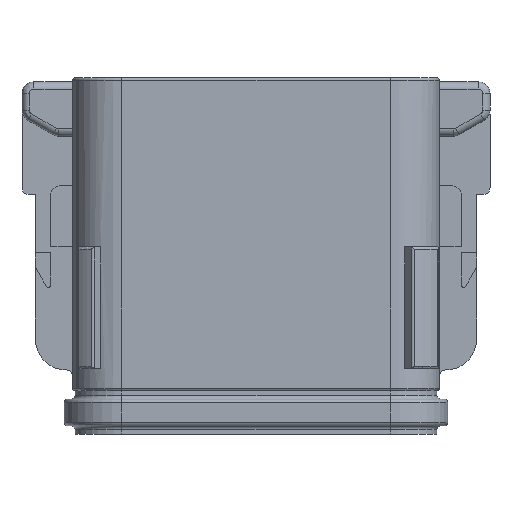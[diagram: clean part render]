
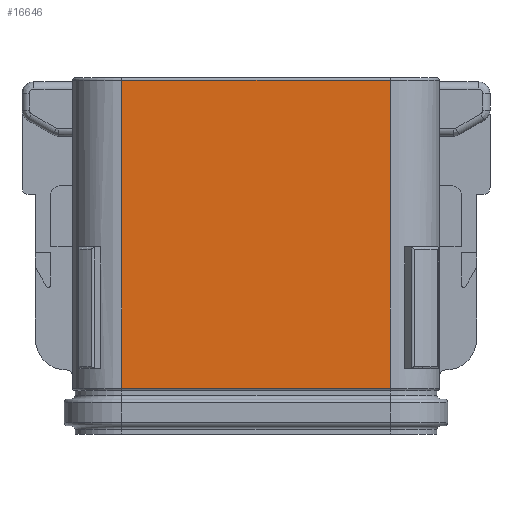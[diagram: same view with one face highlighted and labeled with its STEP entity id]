
A CAD part, front view. The second image highlights one B-rep face of the part: STEP entity #16646.
In plain terms, the highlighted planar face has unit normal (0, -1, 0).
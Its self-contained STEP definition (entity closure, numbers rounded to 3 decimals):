
#2602=DIRECTION('',(1.,0.,0.));
#2603=VECTOR('',#2602,23.241);
#2604=CARTESIAN_POINT('',(-11.62,-9.093,-0.25));
#2605=LINE('',#2604,#2603);
#2609=DIRECTION('',(1.,0.,0.));
#2610=VECTOR('',#2609,23.241);
#2611=CARTESIAN_POINT('',(-11.621,-9.093,-26.927));
#2612=LINE('',#2611,#2610);
#2616=DIRECTION('',(0.,0.,-1.));
#2617=VECTOR('',#2616,26.677);
#2618=CARTESIAN_POINT('',(-11.62,-9.093,-0.25));
#2619=LINE('',#2618,#2617);
#2646=DIRECTION('',(0.,0.,-1.));
#2647=VECTOR('',#2646,26.677);
#2648=CARTESIAN_POINT('',(11.62,-9.093,-0.25));
#2649=LINE('',#2648,#2647);
#14153=CARTESIAN_POINT('',(-11.621,-9.093,-0.25));
#14155=VERTEX_POINT('',#14153);
#14158=CARTESIAN_POINT('',(11.62,-9.093,-0.25));
#14159=VERTEX_POINT('',#14158);
#14180=CARTESIAN_POINT('',(-11.621,-9.093,-26.927));
#14181=CARTESIAN_POINT('',(11.621,-9.093,-26.927));
#14182=VERTEX_POINT('',#14180);
#14183=VERTEX_POINT('',#14181);
#16633=CARTESIAN_POINT('',(-11.621,-9.093,0.));
#16634=DIRECTION('',(0.,-1.,0.));
#16635=DIRECTION('',(1.,0.,0.));
#16636=AXIS2_PLACEMENT_3D('',#16633,#16634,#16635);
#16637=PLANE('',#16636);
#16638=ORIENTED_EDGE('',*,*,#14731,.T.);
#16640=ORIENTED_EDGE('',*,*,#16639,.T.);
#16641=ORIENTED_EDGE('',*,*,#16626,.F.);
#16643=ORIENTED_EDGE('',*,*,#16642,.F.);
#16644=EDGE_LOOP('',(#16638,#16640,#16641,#16643));
#16645=FACE_OUTER_BOUND('',#16644,.F.);
#16646=ADVANCED_FACE('',(#16645),#16637,.T.);
#14731=EDGE_CURVE('',#14155,#14159,#2605,.T.);
#16626=EDGE_CURVE('',#14182,#14183,#2612,.T.);
#16639=EDGE_CURVE('',#14159,#14183,#2649,.T.);
#16642=EDGE_CURVE('',#14155,#14182,#2619,.T.);
